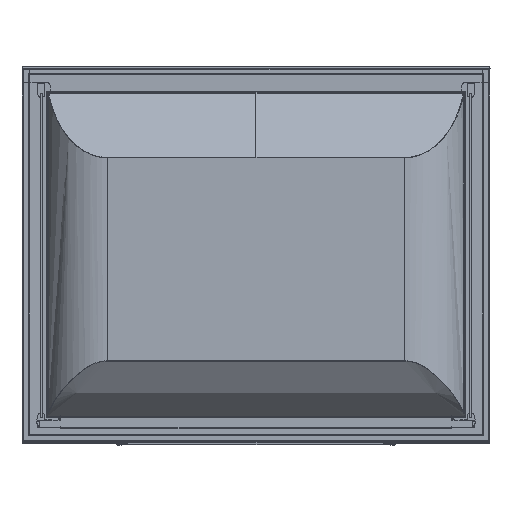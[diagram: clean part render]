
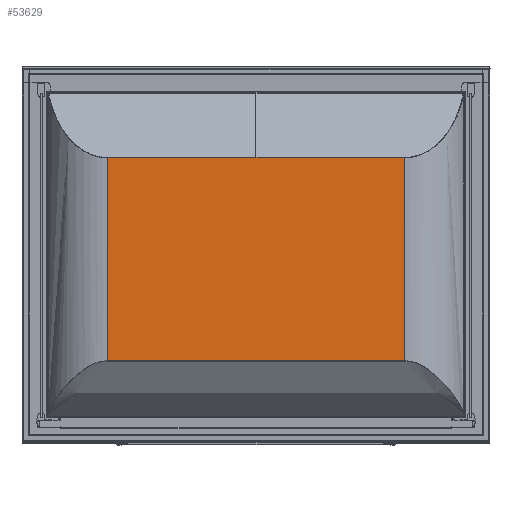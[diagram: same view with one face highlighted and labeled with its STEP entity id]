
A CAD part, top view. The second image highlights one B-rep face of the part: STEP entity #53629.
In plain terms, the highlighted planar face has unit normal (0, 0, 1).
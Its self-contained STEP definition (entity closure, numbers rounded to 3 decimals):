
#53437=CARTESIAN_POINT('',(-183.246,-194.334,2170.));
#53438=VERTEX_POINT('',#53437);
#53452=CARTESIAN_POINT('',(-183.246,-631.101,2170.));
#53453=VERTEX_POINT('',#53452);
#53454=CARTESIAN_POINT('',(-183.246,-631.101,2170.));
#53455=DIRECTION('',(0.0,1.0,0.0));
#53456=VECTOR('',#53455,436.767);
#53457=LINE('',#53454,#53456);
#53458=EDGE_CURVE('',#53453,#53438,#53457,.T.);
#53544=CARTESIAN_POINT('',(-820.792,-631.101,2170.));
#53545=VERTEX_POINT('',#53544);
#53546=CARTESIAN_POINT('',(-183.246,-631.101,2170.));
#53547=DIRECTION('',(-1.0,0.0,0.0));
#53548=VECTOR('',#53547,637.546);
#53549=LINE('',#53546,#53548);
#53550=EDGE_CURVE('',#53453,#53545,#53549,.T.);
#53598=CARTESIAN_POINT('',(-182.946,-630.686,2170.));
#53599=DIRECTION('',(0.0,0.0,1.0));
#53600=DIRECTION('',(0.0,1.0,0.0));
#53601=AXIS2_PLACEMENT_3D('',#53598,#53599,#53600);
#53602=PLANE('',#53601);
#53603=ORIENTED_EDGE('',*,*,#53458,.T.);
#53604=CARTESIAN_POINT('',(-502.019,-194.334,2170.));
#53605=VERTEX_POINT('',#53604);
#53606=CARTESIAN_POINT('',(-502.019,-194.334,2170.));
#53607=DIRECTION('',(1.0,0.0,0.0));
#53608=VECTOR('',#53607,318.773);
#53609=LINE('',#53606,#53608);
#53610=EDGE_CURVE('',#53605,#53438,#53609,.T.);
#53611=ORIENTED_EDGE('',*,*,#53610,.F.);
#53612=CARTESIAN_POINT('',(-820.792,-194.334,2170.));
#53613=VERTEX_POINT('',#53612);
#53614=CARTESIAN_POINT('',(-820.792,-194.334,2170.));
#53615=DIRECTION('',(1.0,0.0,0.0));
#53616=VECTOR('',#53615,318.773);
#53617=LINE('',#53614,#53616);
#53618=EDGE_CURVE('',#53613,#53605,#53617,.T.);
#53619=ORIENTED_EDGE('',*,*,#53618,.F.);
#53620=CARTESIAN_POINT('',(-820.792,-631.101,2170.));
#53621=DIRECTION('',(0.0,1.0,0.0));
#53622=VECTOR('',#53621,436.767);
#53623=LINE('',#53620,#53622);
#53624=EDGE_CURVE('',#53545,#53613,#53623,.T.);
#53625=ORIENTED_EDGE('',*,*,#53624,.F.);
#53626=ORIENTED_EDGE('',*,*,#53550,.F.);
#53627=EDGE_LOOP('',(#53603,#53611,#53619,#53625,#53626));
#53628=FACE_OUTER_BOUND('',#53627,.T.);
#53629=ADVANCED_FACE('',(#53628),#53602,.T.);
